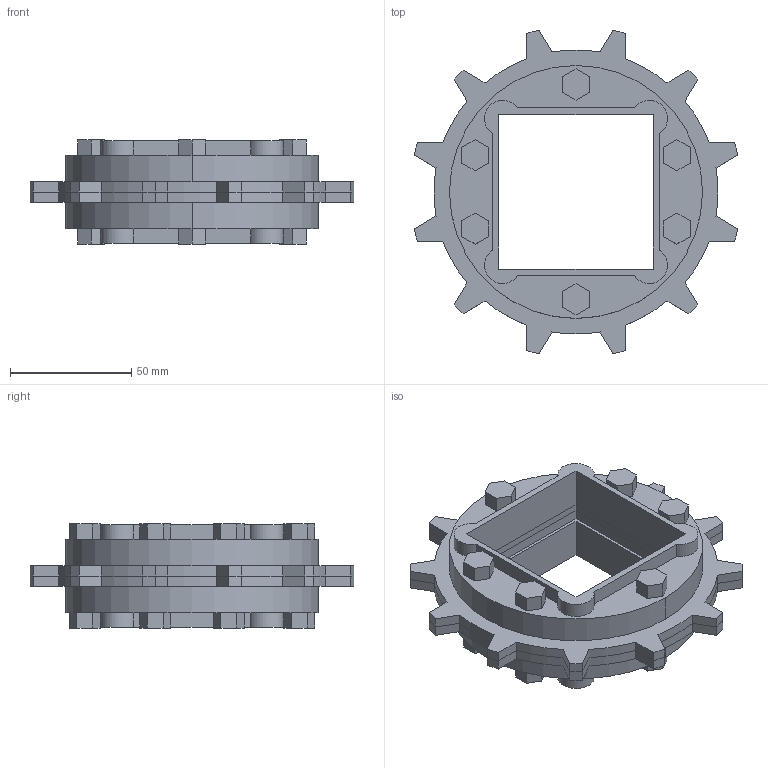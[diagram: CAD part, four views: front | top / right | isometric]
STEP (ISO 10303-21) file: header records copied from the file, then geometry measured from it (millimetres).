
FILE_DESCRIPTION((''),'2;1');
FILE_NAME('S1200_SPL_METAL_56X25_SQ_ASM','2008-12-12T',('jmumphre'),(''),'PRO/ENGINEER BY PARAMETRIC TECHNOLOGY CORPORATION, 2008150','PRO/ENGINEER BY PARAMETRIC TECHNOLOGY CORPORATION, 2008150','');
FILE_SCHEMA(('CONFIG_CONTROL_DESIGN'));
Length unit declared in the file: inch
Products named in the file (6): S1200_TP_METAL_56X26_SQ_AF0; S1200_TP_METAL_56X26_SQ_AF1; JOINING_PLATE_5X25_65_SQ_AF6; JOINING_PLATE_5X25_65_SQ_AF7; BOLTS_N_NUTS_3-480X1-188_AF3; S1200_SPL_METAL_56X25_SQ_ASM
Assembly tree (5 placements, depth 2):
  S1200_SPL_METAL_56X25_SQ_ASM
    S1200_TP_METAL_56X26_SQ_AF0
    S1200_TP_METAL_56X26_SQ_AF1
    JOINING_PLATE_5X25_65_SQ_AF6
    JOINING_PLATE_5X25_65_SQ_AF7
    BOLTS_N_NUTS_3-480X1-188_AF3
Bounding box: 133.36 x 133.36 x 42.88 mm (x, y, z)
Volume: 177911.2 mm3; surface area: 84271.8 mm2
Topology: 10 solids, 10 shells, 298 faces, 792 edges, 528 vertices
Faces by surface type: plane 202, cylinder 96
Entity records: 9511 total; most frequent: CARTESIAN_POINT 1629, DIRECTION 1602, ORIENTED_EDGE 1584, EDGE_CURVE 792, VECTOR 600, LINE 600, VERTEX_POINT 528, AXIS2_PLACEMENT_3D 501
